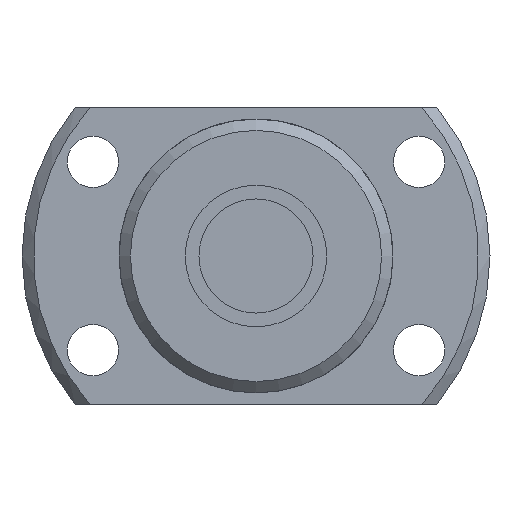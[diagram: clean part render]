
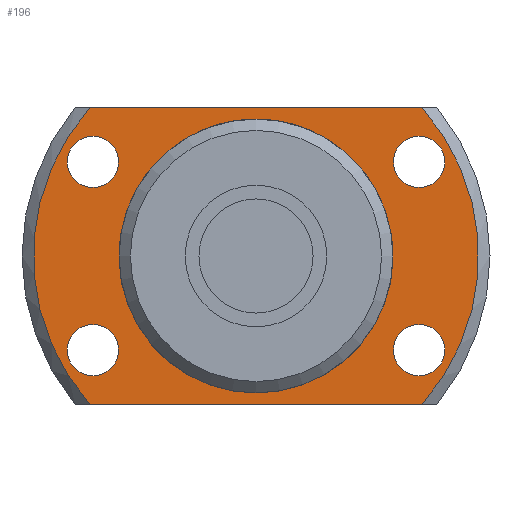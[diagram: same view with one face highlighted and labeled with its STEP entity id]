
A CAD part, left-side view. The second image highlights one B-rep face of the part: STEP entity #196.
In plain terms, the highlighted planar face has unit normal (-1, 0, 0).
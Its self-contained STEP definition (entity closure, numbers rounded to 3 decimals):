
#196 = ADVANCED_FACE( '', ( #280, #281, #282, #283, #284, #285 ), #286, .F. );
#280 = FACE_OUTER_BOUND( '', #405, .T. );
#281 = FACE_BOUND( '', #406, .T. );
#282 = FACE_BOUND( '', #407, .T. );
#283 = FACE_BOUND( '', #408, .T. );
#284 = FACE_BOUND( '', #409, .T. );
#285 = FACE_BOUND( '', #410, .T. );
#286 = PLANE( '', #411 );
#405 = EDGE_LOOP( '', ( #674, #675, #676, #677 ) );
#406 = EDGE_LOOP( '', ( #678 ) );
#407 = EDGE_LOOP( '', ( #679 ) );
#408 = EDGE_LOOP( '', ( #680 ) );
#409 = EDGE_LOOP( '', ( #681 ) );
#410 = EDGE_LOOP( '', ( #682 ) );
#411 = AXIS2_PLACEMENT_3D( '', #683, #684, #685 );
#674 = ORIENTED_EDGE( '', *, *, #913, .F. );
#675 = ORIENTED_EDGE( '', *, *, #927, .T. );
#676 = ORIENTED_EDGE( '', *, *, #919, .F. );
#677 = ORIENTED_EDGE( '', *, *, #907, .T. );
#678 = ORIENTED_EDGE( '', *, *, #928, .T. );
#679 = ORIENTED_EDGE( '', *, *, #929, .T. );
#680 = ORIENTED_EDGE( '', *, *, #930, .T. );
#681 = ORIENTED_EDGE( '', *, *, #931, .T. );
#682 = ORIENTED_EDGE( '', *, *, #916, .T. );
#683 = CARTESIAN_POINT( '', ( 23., 11.75, 0. ) );
#684 = DIRECTION( '', ( 1., 0., 0. ) );
#685 = DIRECTION( '', ( 0., 0., -1. ) );
#907 = EDGE_CURVE( '', #1067, #1065, #1068, .T. );
#913 = EDGE_CURVE( '', #1078, #1065, #1079, .T. );
#916 = EDGE_CURVE( '', #1083, #1083, #1084, .T. );
#919 = EDGE_CURVE( '', #1067, #1088, #1089, .T. );
#927 = EDGE_CURVE( '', #1078, #1088, #1101, .T. );
#928 = EDGE_CURVE( '', #1102, #1102, #1103, .T. );
#929 = EDGE_CURVE( '', #1104, #1104, #1105, .T. );
#930 = EDGE_CURVE( '', #1106, #1106, #1107, .T. );
#931 = EDGE_CURVE( '', #1108, #1108, #1109, .T. );
#1065 = VERTEX_POINT( '', #1325 );
#1067 = VERTEX_POINT( '', #1330 );
#1068 = LINE( '', #1331, #1332 );
#1078 = VERTEX_POINT( '', #1353 );
#1079 = CIRCLE( '', #1354, 19.5 );
#1083 = VERTEX_POINT( '', #1361 );
#1084 = CIRCLE( '', #1362, 11.75 );
#1088 = VERTEX_POINT( '', #1367 );
#1089 = CIRCLE( '', #1368, 19.5 );
#1101 = LINE( '', #1385, #1386 );
#1102 = VERTEX_POINT( '', #1387 );
#1103 = CIRCLE( '', #1388, 2.25 );
#1104 = VERTEX_POINT( '', #1389 );
#1105 = CIRCLE( '', #1390, 2.25 );
#1106 = VERTEX_POINT( '', #1391 );
#1107 = CIRCLE( '', #1392, 2.25 );
#1108 = VERTEX_POINT( '', #1393 );
#1109 = CIRCLE( '', #1394, 2.25 );
#1325 = CARTESIAN_POINT( '', ( 23., 14.534, 13. ) );
#1330 = CARTESIAN_POINT( '', ( 23., -14.534, 13. ) );
#1331 = CARTESIAN_POINT( '', ( 23., 11.75, 13. ) );
#1332 = VECTOR( '', #1549, 1000. );
#1353 = CARTESIAN_POINT( '', ( 23., 14.534, -13. ) );
#1354 = AXIS2_PLACEMENT_3D( '', #1552, #1553, #1554 );
#1361 = CARTESIAN_POINT( '', ( 23., 0., -11.75 ) );
#1362 = AXIS2_PLACEMENT_3D( '', #1558, #1559, #1560 );
#1367 = CARTESIAN_POINT( '', ( 23., -14.534, -13. ) );
#1368 = AXIS2_PLACEMENT_3D( '', #1565, #1566, #1567 );
#1385 = CARTESIAN_POINT( '', ( 23., 11.75, -13. ) );
#1386 = VECTOR( '', #1582, 1000. );
#1387 = CARTESIAN_POINT( '', ( 23., -14.289, 6. ) );
#1388 = AXIS2_PLACEMENT_3D( '', #1583, #1584, #1585 );
#1389 = CARTESIAN_POINT( '', ( 23., -14.289, -10.5 ) );
#1390 = AXIS2_PLACEMENT_3D( '', #1586, #1587, #1588 );
#1391 = CARTESIAN_POINT( '', ( 23., 14.289, -10.5 ) );
#1392 = AXIS2_PLACEMENT_3D( '', #1589, #1590, #1591 );
#1393 = CARTESIAN_POINT( '', ( 23., 14.289, 6. ) );
#1394 = AXIS2_PLACEMENT_3D( '', #1592, #1593, #1594 );
#1549 = DIRECTION( '', ( 0., 1., 0. ) );
#1552 = CARTESIAN_POINT( '', ( 23., 0., 0. ) );
#1553 = DIRECTION( '', ( 1., 0., 0. ) );
#1554 = DIRECTION( '', ( 0., 0., -1. ) );
#1558 = CARTESIAN_POINT( '', ( 23., 0., 0. ) );
#1559 = DIRECTION( '', ( 1., 0., 0. ) );
#1560 = DIRECTION( '', ( 0., 0., -1. ) );
#1565 = CARTESIAN_POINT( '', ( 23., 0., 0. ) );
#1566 = DIRECTION( '', ( 1., 0., 0. ) );
#1567 = DIRECTION( '', ( 0., 0., -1. ) );
#1582 = DIRECTION( '', ( 0., -1., 0. ) );
#1583 = CARTESIAN_POINT( '', ( 23., -14.289, 8.25 ) );
#1584 = DIRECTION( '', ( 1., 0., 0. ) );
#1585 = DIRECTION( '', ( 0., 0., -1. ) );
#1586 = CARTESIAN_POINT( '', ( 23., -14.289, -8.25 ) );
#1587 = DIRECTION( '', ( 1., 0., 0. ) );
#1588 = DIRECTION( '', ( 0., 0., -1. ) );
#1589 = CARTESIAN_POINT( '', ( 23., 14.289, -8.25 ) );
#1590 = DIRECTION( '', ( 1., 0., 0. ) );
#1591 = DIRECTION( '', ( 0., 0., -1. ) );
#1592 = CARTESIAN_POINT( '', ( 23., 14.289, 8.25 ) );
#1593 = DIRECTION( '', ( 1., 0., 0. ) );
#1594 = DIRECTION( '', ( 0., 0., -1. ) );
